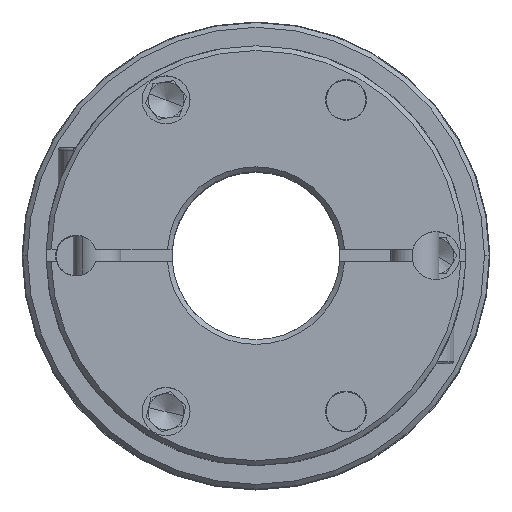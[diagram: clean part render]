
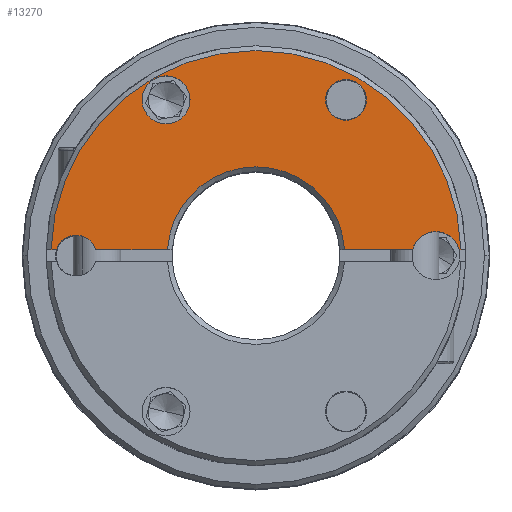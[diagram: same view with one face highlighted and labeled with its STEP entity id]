
A CAD part, top view. The second image highlights one B-rep face of the part: STEP entity #13270.
In plain terms, the highlighted planar face has unit normal (0, 0, 1).
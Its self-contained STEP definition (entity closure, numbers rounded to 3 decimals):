
#128 = LINE ( 'NONE', #6773, #7449 ) ;
#194 = EDGE_CURVE ( 'NONE', #7210, #1105, #4287, .T. ) ;
#769 = CIRCLE ( 'NONE', #6263, 3.4 ) ;
#943 = AXIS2_PLACEMENT_3D ( 'NONE', #4644, #17714, #7961 ) ;
#964 = VERTEX_POINT ( 'NONE', #13749 ) ;
#1105 = VERTEX_POINT ( 'NONE', #19131 ) ;
#1318 = VERTEX_POINT ( 'NONE', #15128 ) ;
#1437 = EDGE_LOOP ( 'NONE', ( #18538, #20682 ) ) ;
#1554 = FACE_BOUND ( 'NONE', #20578, .T. ) ;
#1855 = DIRECTION ( 'NONE',  ( -1., 0., 0. ) ) ;
#2036 = DIRECTION ( 'NONE',  ( -1., 0., 0. ) ) ;
#2058 = CARTESIAN_POINT ( 'NONE',  ( -30., 0., 33.85 ) ) ;
#2236 = EDGE_CURVE ( 'NONE', #4809, #4667, #13013, .T. ) ;
#2470 = EDGE_CURVE ( 'NONE', #964, #15853, #5392, .T. ) ;
#2770 = EDGE_CURVE ( 'NONE', #16575, #8042, #17022, .T. ) ;
#3049 = CARTESIAN_POINT ( 'NONE',  ( 26.127, 1., 33.85 ) ) ;
#3376 = DIRECTION ( 'NONE',  ( 1., 0., 0. ) ) ;
#3548 = AXIS2_PLACEMENT_3D ( 'NONE', #8088, #8195, #3376 ) ;
#4069 = LINE ( 'NONE', #7701, #9241 ) ;
#4287 = CIRCLE ( 'NONE', #6347, 3.4 ) ;
#4322 = CARTESIAN_POINT ( 'NONE',  ( 30., 0., 33.85 ) ) ;
#4644 = CARTESIAN_POINT ( 'NONE',  ( 0., 0., 33.85 ) ) ;
#4667 = VERTEX_POINT ( 'NONE', #9511 ) ;
#4729 = DIRECTION ( 'NONE',  ( 0., 0., -1. ) ) ;
#4809 = VERTEX_POINT ( 'NONE', #5323 ) ;
#4981 = FACE_OUTER_BOUND ( 'NONE', #9018, .T. ) ;
#5127 = VERTEX_POINT ( 'NONE', #14798 ) ;
#5323 = CARTESIAN_POINT ( 'NONE',  ( -26.75, 1., 33.85 ) ) ;
#5392 = LINE ( 'NONE', #5499, #10850 ) ;
#5499 = CARTESIAN_POINT ( 'NONE',  ( -39., 1., 33.85 ) ) ;
#5578 = VERTEX_POINT ( 'NONE', #7641 ) ;
#5602 = EDGE_CURVE ( 'NONE', #15853, #5578, #11996, .T. ) ;
#6013 = DIRECTION ( 'NONE',  ( 0., 0., -1. ) ) ;
#6089 = DIRECTION ( 'NONE',  ( 1., 0., 0. ) ) ;
#6263 = AXIS2_PLACEMENT_3D ( 'NONE', #8582, #20167, #12104 ) ;
#6347 = AXIS2_PLACEMENT_3D ( 'NONE', #16117, #19563, #2036 ) ;
#6683 = AXIS2_PLACEMENT_3D ( 'NONE', #2058, #20079, #1855 ) ;
#6773 = CARTESIAN_POINT ( 'NONE',  ( -39., 1., 33.85 ) ) ;
#7210 = VERTEX_POINT ( 'NONE', #19938 ) ;
#7355 = CIRCLE ( 'NONE', #6683, 3.4 ) ;
#7449 = VECTOR ( 'NONE', #11584, 1000. ) ;
#7641 = CARTESIAN_POINT ( 'NONE',  ( 33.873, 1., 33.85 ) ) ;
#7655 = ORIENTED_EDGE ( 'NONE', *, *, #8424, .T. ) ;
#7701 = CARTESIAN_POINT ( 'NONE',  ( -39., 1., 33.85 ) ) ;
#7961 = DIRECTION ( 'NONE',  ( 1., 0., 0. ) ) ;
#8042 = VERTEX_POINT ( 'NONE', #10219 ) ;
#8088 = CARTESIAN_POINT ( 'NONE',  ( 0., 0., 33.85 ) ) ;
#8195 = DIRECTION ( 'NONE',  ( 0., 0., 1. ) ) ;
#8424 = EDGE_CURVE ( 'NONE', #14993, #4809, #7355, .T. ) ;
#8450 = VECTOR ( 'NONE', #17948, 1000. ) ;
#8582 = CARTESIAN_POINT ( 'NONE',  ( 15., 25.981, 33.85 ) ) ;
#9018 = EDGE_LOOP ( 'NONE', ( #15675, #12835, #7655, #16366, #17459, #21139, #15699, #16066 ) ) ;
#9241 = VECTOR ( 'NONE', #6089, 1000. ) ;
#9511 = CARTESIAN_POINT ( 'NONE',  ( -14.766, 1., 33.85 ) ) ;
#10219 = CARTESIAN_POINT ( 'NONE',  ( -34.185, 1., 33.85 ) ) ;
#10850 = VECTOR ( 'NONE', #18468, 1000. ) ;
#11187 = FACE_BOUND ( 'NONE', #1437, .T. ) ;
#11584 = DIRECTION ( 'NONE',  ( 1., 0., 0. ) ) ;
#11793 = EDGE_CURVE ( 'NONE', #5127, #1318, #19747, .T. ) ;
#11889 = CARTESIAN_POINT ( 'NONE',  ( 34.185, 1., 33.85 ) ) ;
#11996 = CIRCLE ( 'NONE', #18525, 4. ) ;
#12104 = DIRECTION ( 'NONE',  ( -1., 0., 0. ) ) ;
#12182 = DIRECTION ( 'NONE',  ( 0.5, -0.866, 0. ) ) ;
#12478 = EDGE_CURVE ( 'NONE', #1105, #7210, #769, .T. ) ;
#12835 = ORIENTED_EDGE ( 'NONE', *, *, #20847, .T. ) ;
#13013 = LINE ( 'NONE', #16131, #8450 ) ;
#13270 = ADVANCED_FACE ( 'NONE', ( #11187, #1554, #4981 ), #17738, .T. ) ;
#13749 = CARTESIAN_POINT ( 'NONE',  ( 14.766, 1., 33.85 ) ) ;
#14026 = DIRECTION ( 'NONE',  ( 1., 0., 0. ) ) ;
#14798 = CARTESIAN_POINT ( 'NONE',  ( -11., 25.981, 33.85 ) ) ;
#14993 = VERTEX_POINT ( 'NONE', #19447 ) ;
#15128 = CARTESIAN_POINT ( 'NONE',  ( -19., 25.981, 33.85 ) ) ;
#15399 = DIRECTION ( 'NONE',  ( 0., 0., -1. ) ) ;
#15618 = CARTESIAN_POINT ( 'NONE',  ( -15., 25.981, 33.85 ) ) ;
#15635 = AXIS2_PLACEMENT_3D ( 'NONE', #19315, #4729, #14026 ) ;
#15675 = ORIENTED_EDGE ( 'NONE', *, *, #2770, .T. ) ;
#15677 = DIRECTION ( 'NONE',  ( 0., 0., -1. ) ) ;
#15699 = ORIENTED_EDGE ( 'NONE', *, *, #5602, .T. ) ;
#15853 = VERTEX_POINT ( 'NONE', #3049 ) ;
#15972 = AXIS2_PLACEMENT_3D ( 'NONE', #15618, #15399, #12182 ) ;
#16066 = ORIENTED_EDGE ( 'NONE', *, *, #17701, .T. ) ;
#16117 = CARTESIAN_POINT ( 'NONE',  ( 15., 25.981, 33.85 ) ) ;
#16131 = CARTESIAN_POINT ( 'NONE',  ( -39., 1., 33.85 ) ) ;
#16204 = ORIENTED_EDGE ( 'NONE', *, *, #194, .T. ) ;
#16305 = DIRECTION ( 'NONE',  ( 0.5, -0.866, 0. ) ) ;
#16366 = ORIENTED_EDGE ( 'NONE', *, *, #2236, .T. ) ;
#16575 = VERTEX_POINT ( 'NONE', #11889 ) ;
#16744 = CIRCLE ( 'NONE', #20196, 4. ) ;
#16745 = EDGE_CURVE ( 'NONE', #4667, #964, #18710, .T. ) ;
#17022 = CIRCLE ( 'NONE', #943, 34.2 ) ;
#17394 = DIRECTION ( 'NONE',  ( -1., 0., 0. ) ) ;
#17459 = ORIENTED_EDGE ( 'NONE', *, *, #16745, .T. ) ;
#17701 = EDGE_CURVE ( 'NONE', #5578, #16575, #128, .T. ) ;
#17714 = DIRECTION ( 'NONE',  ( 0., 0., 1. ) ) ;
#17738 = PLANE ( 'NONE',  #3548 ) ;
#17948 = DIRECTION ( 'NONE',  ( 1., 0., 0. ) ) ;
#18468 = DIRECTION ( 'NONE',  ( 1., 0., 0. ) ) ;
#18525 = AXIS2_PLACEMENT_3D ( 'NONE', #4322, #15677, #17394 ) ;
#18538 = ORIENTED_EDGE ( 'NONE', *, *, #19182, .T. ) ;
#18710 = CIRCLE ( 'NONE', #15635, 14.8 ) ;
#19131 = CARTESIAN_POINT ( 'NONE',  ( 11.6, 25.981, 33.85 ) ) ;
#19182 = EDGE_CURVE ( 'NONE', #1318, #5127, #16744, .T. ) ;
#19315 = CARTESIAN_POINT ( 'NONE',  ( 0., 0., 33.85 ) ) ;
#19447 = CARTESIAN_POINT ( 'NONE',  ( -33.25, 1., 33.85 ) ) ;
#19563 = DIRECTION ( 'NONE',  ( 0., 0., -1. ) ) ;
#19747 = CIRCLE ( 'NONE', #15972, 4. ) ;
#19938 = CARTESIAN_POINT ( 'NONE',  ( 18.4, 25.981, 33.85 ) ) ;
#20079 = DIRECTION ( 'NONE',  ( 0., 0., -1. ) ) ;
#20167 = DIRECTION ( 'NONE',  ( 0., 0., -1. ) ) ;
#20196 = AXIS2_PLACEMENT_3D ( 'NONE', #20725, #6013, #16305 ) ;
#20214 = ORIENTED_EDGE ( 'NONE', *, *, #12478, .T. ) ;
#20578 = EDGE_LOOP ( 'NONE', ( #20214, #16204 ) ) ;
#20682 = ORIENTED_EDGE ( 'NONE', *, *, #11793, .T. ) ;
#20725 = CARTESIAN_POINT ( 'NONE',  ( -15., 25.981, 33.85 ) ) ;
#20847 = EDGE_CURVE ( 'NONE', #8042, #14993, #4069, .T. ) ;
#21139 = ORIENTED_EDGE ( 'NONE', *, *, #2470, .T. ) ;
